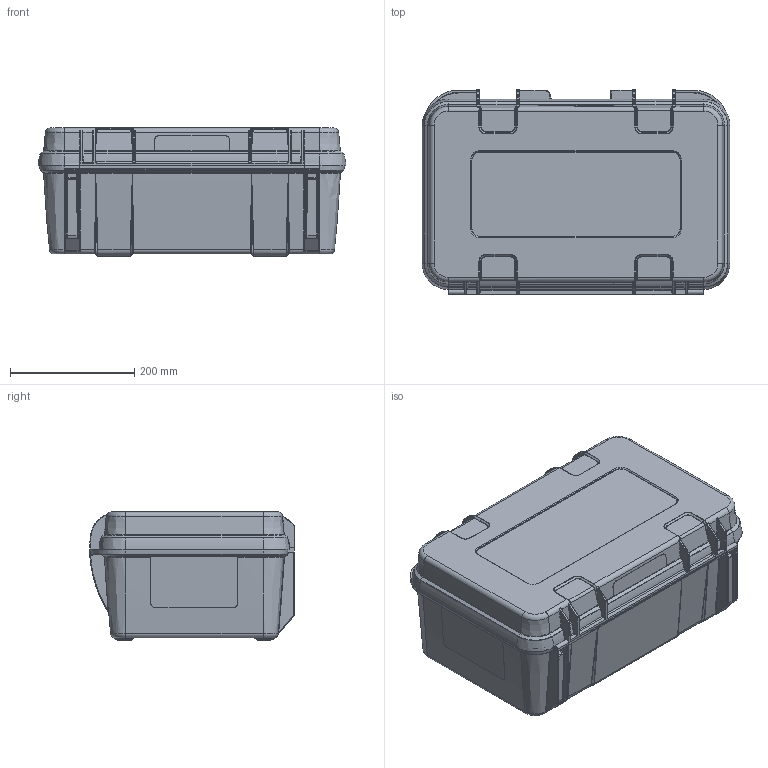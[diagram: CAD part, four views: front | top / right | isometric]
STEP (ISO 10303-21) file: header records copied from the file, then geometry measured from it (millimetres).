
FILE_DESCRIPTION(/* description */ (''),/* implementation_level */ '2;1');
FILE_NAME(/* name */ 'C90.stp',/* time_stamp */ '2013-06-19T08:26:56+02:00',/* author */ (''),/* organization */ (''),/* preprocessor_version */ 'ST-DEVELOPER v14',/* originating_system */ 'SIEMENS PLM Software NX 8.0',/* authorisation */ '');
FILE_SCHEMA (('AUTOMOTIVE_DESIGN { 1 0 10303 214 3 1 1 1 }'));
Products named in the file (1): ds1A38E9E2lcg5
Bounding box: 496 x 330 x 206.3 mm (x, y, z)
Volume: 2144325.3 mm3; surface area: 1244751.4 mm2
Topology: 2 solids, 2 shells, 3150 faces, 7700 edges, 4509 vertices
Faces by surface type: bspline 1328, cylinder 824, plane 707, torus 103, extrusion 73, cone 65, sphere 50
Entity records: 128559 total; most frequent: CARTESIAN_POINT 63300, ORIENTED_EDGE 15228, DIRECTION 11501, EDGE_CURVE 7614, VERTEX_POINT 4525, AXIS2_PLACEMENT_3D 4395, EDGE_LOOP 3205, ADVANCED_FACE 3150
